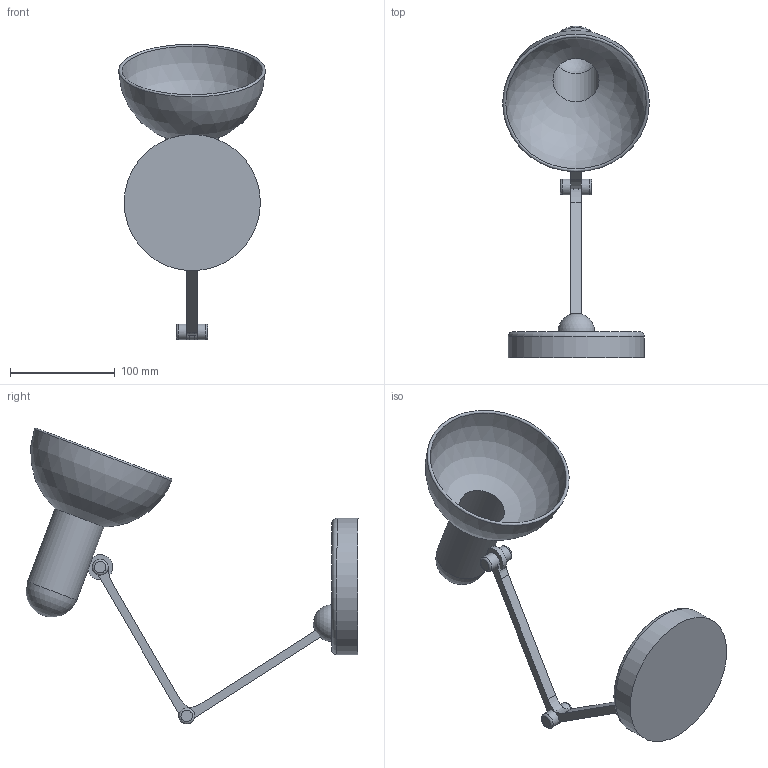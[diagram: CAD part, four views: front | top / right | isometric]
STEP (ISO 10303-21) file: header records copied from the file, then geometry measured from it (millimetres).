
FILE_DESCRIPTION(/* description */ (''),/* implementation_level */ '2;1');
FILE_NAME(/* name */ 'C:\Users\andre\OneDrive\Documents\3Ds Max Projects\Mouse\Lamp\Lamp.stp',/* time_stamp */ '2018-07-01T14:19:59+01:00',/* author */ ('Andrea Phee'),/* organization */ ('SQA'),/* preprocessor_version */ 'ST-DEVELOPER v16.13',/* originating_system */ 'Autodesk Inventor 2018',/* authorisation */ '');
FILE_SCHEMA (('AUTOMOTIVE_DESIGN { 1 0 10303 214 3 1 1 }'));
Length unit declared in the file: millimetre
Products named in the file (4): Lamp; 1; 2; 3
Assembly tree (4 placements, depth 2):
  Lamp
    1
    2  x2
    3
Bounding box: 139.97 x 316.64 x 281.95 mm (x, y, z)
Volume: 502074.8 mm3; surface area: 140753.4 mm2
Topology: 4 solids, 4 shells, 66 faces, 156 edges, 101 vertices
Faces by surface type: plane 28, cylinder 27, torus 6, sphere 5
Full cylindrical faces by diameter (mm): 10 x7, 15 x4, 44 x1, 50 x1, 130 x1
Entity records: 1154 total; most frequent: DIRECTION 208, CARTESIAN_POINT 176, ORIENTED_EDGE 132, AXIS2_PLACEMENT_3D 95, EDGE_CURVE 66, EDGE_LOOP 64, VERTEX_POINT 50, CIRCLE 46
